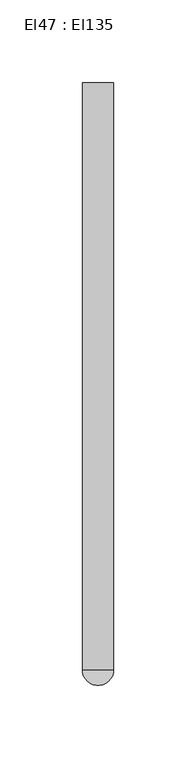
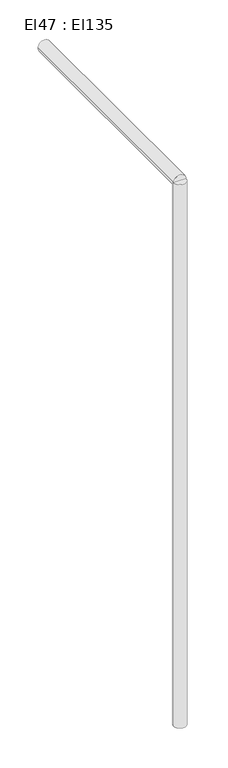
"""IFC4 building model written with IfcOpenShell, lengths in millimetres: cable carrier segment geometry, El47 : El135."""

from ifc_helpers import new_model, si_unit, point, frame, frame_2d, origin, place, context, project, spatial, circle_curve, trimmed, segment, composite_curve, outline, extrude, source, transform, mapped, element, save


def el47_el135_66c54992(model_context):
    return source(origin(), model_context, "Body", "SweptSolid", [
        extrude(outline(composite_curve([segment(trimmed(circle_curve(frame_2d((25144.4746511, 952.6111745)), 9.5), [point((25134.9746511, 952.6111745))], [point((25153.9746511, 952.6111745))], False, "CARTESIAN"), True, "CONTINUOUS"), segment(trimmed(circle_curve(frame_2d((25144.4746511, 952.6111745)), 9.5), [point((25153.9746511, 952.6111745))], [point((25134.9746511, 952.6111745))], False, "CARTESIAN"), True, "CONTINUOUS")], self_intersect=False)), frame((0.0, 0.0, 1830.0), z_axis=(0.0, 0.0, 1.0), x_axis=(1.0, 0.0, 0.0)), (0.0, 0.0, 1.0), 870.0),
        extrude(outline(composite_curve([segment(trimmed(circle_curve(frame_2d((2700.0, 25144.4746511)), 9.5), [point((2700.0, 25134.9746511))], [point((2700.0, 25153.9746511))], False, "CARTESIAN"), True, "CONTINUOUS"), segment(trimmed(circle_curve(frame_2d((2700.0, 25144.4746511)), 9.5), [point((2700.0, 25153.9746511))], [point((2700.0, 25134.9746511))], False, "CARTESIAN"), True, "CONTINUOUS")], self_intersect=False)), frame((0.0, 952.6121745, 0.0), z_axis=(0.0, 1.0, 0.0), x_axis=(0.0, 0.0, 1.0)), (0.0, 0.0, 1.0), 355.681),
    ])


if __name__ == "__main__":
    model = new_model("IFC4")
    model_context = context("Model", 3, world=origin())
    ifc_project = project(units=[si_unit("LENGTHUNIT", "METRE", prefix="MILLI")], contexts=[model_context])
    site = spatial("IfcSite", under=ifc_project)
    building = spatial("IfcBuilding", under=site)
    placement = place(None, origin())
    el47_el135_shape = el47_el135_66c54992(model_context)
    element("IfcCableCarrierSegment", 1, ObjectType="El47 : El135", at=placement, inside=building, context=model_context, shape_type="MappedRepresentation", body=[
        mapped(el47_el135_shape, transform((0.0, 0.0, 0.0), x_axis=(1.0, 0.0, 0.0), y_axis=(0.0, 1.0, 0.0), z_axis=(0.0, 0.0, 1.0))),
    ])
    save(model, "model.ifc")
